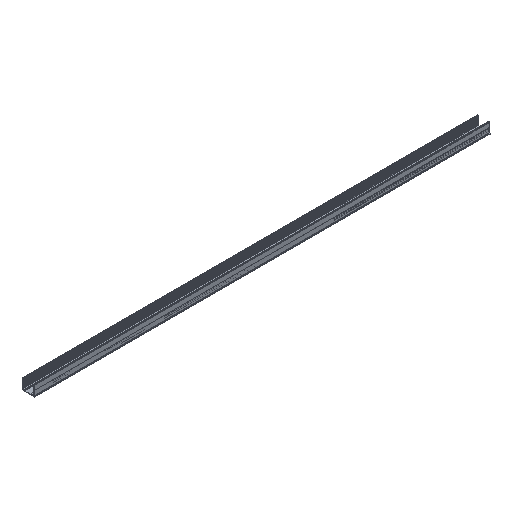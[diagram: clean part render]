
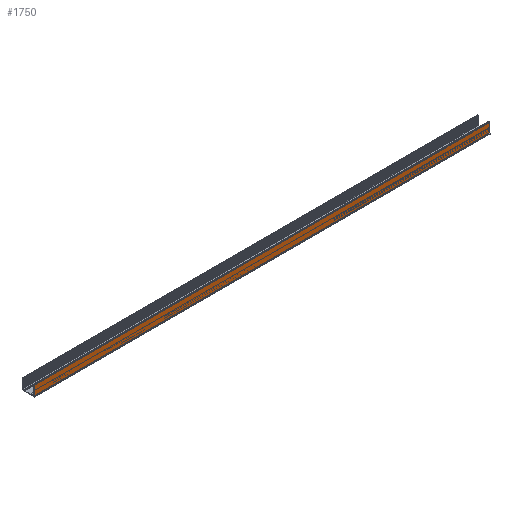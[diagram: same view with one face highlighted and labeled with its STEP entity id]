
A CAD part, isometric view. The second image highlights one B-rep face of the part: STEP entity #1750.
In plain terms, the highlighted planar face has unit normal (0, -1, 0).
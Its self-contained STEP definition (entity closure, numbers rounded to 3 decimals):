
#92=PLANE('',#1874);
#170=FACE_OUTER_BOUND('',#264,.T.);
#264=EDGE_LOOP('',(#1351,#1352,#1353,#1354));
#412=LINE('',#2768,#614);
#413=LINE('',#2771,#615);
#414=LINE('',#2773,#616);
#415=LINE('',#2774,#617);
#614=VECTOR('',#2134,10.);
#615=VECTOR('',#2137,10.);
#616=VECTOR('',#2138,10.);
#617=VECTOR('',#2139,10.);
#831=VERTEX_POINT('',#2764);
#832=VERTEX_POINT('',#2766);
#833=VERTEX_POINT('',#2770);
#834=VERTEX_POINT('',#2772);
#1044=EDGE_CURVE('',#831,#832,#412,.T.);
#1045=EDGE_CURVE('',#833,#831,#413,.T.);
#1046=EDGE_CURVE('',#834,#832,#414,.T.);
#1047=EDGE_CURVE('',#833,#834,#415,.T.);
#1351=ORIENTED_EDGE('',*,*,#1045,.T.);
#1352=ORIENTED_EDGE('',*,*,#1044,.T.);
#1353=ORIENTED_EDGE('',*,*,#1046,.F.);
#1354=ORIENTED_EDGE('',*,*,#1047,.F.);
#1750=ADVANCED_FACE('',(#170),#92,.T.);
#1874=AXIS2_PLACEMENT_3D('',#2769,#2135,#2136);
#2134=DIRECTION('',(1.,0.,0.));
#2135=DIRECTION('center_axis',(0.,-1.,0.));
#2136=DIRECTION('ref_axis',(0.,0.,-1.));
#2137=DIRECTION('',(0.,0.,-1.));
#2138=DIRECTION('',(0.,0.,-1.));
#2139=DIRECTION('',(1.,0.,0.));
#2764=CARTESIAN_POINT('',(0.,-13.843,3.079));
#2766=CARTESIAN_POINT('',(1000.,-13.843,3.079));
#2768=CARTESIAN_POINT('',(0.,-13.843,3.079));
#2769=CARTESIAN_POINT('Origin',(0.,-13.843,22.779));
#2770=CARTESIAN_POINT('',(0.,-13.843,22.779));
#2771=CARTESIAN_POINT('',(0.,-13.843,22.779));
#2772=CARTESIAN_POINT('',(1000.,-13.843,22.779));
#2773=CARTESIAN_POINT('',(1000.,-13.843,22.779));
#2774=CARTESIAN_POINT('',(0.,-13.843,22.779));
